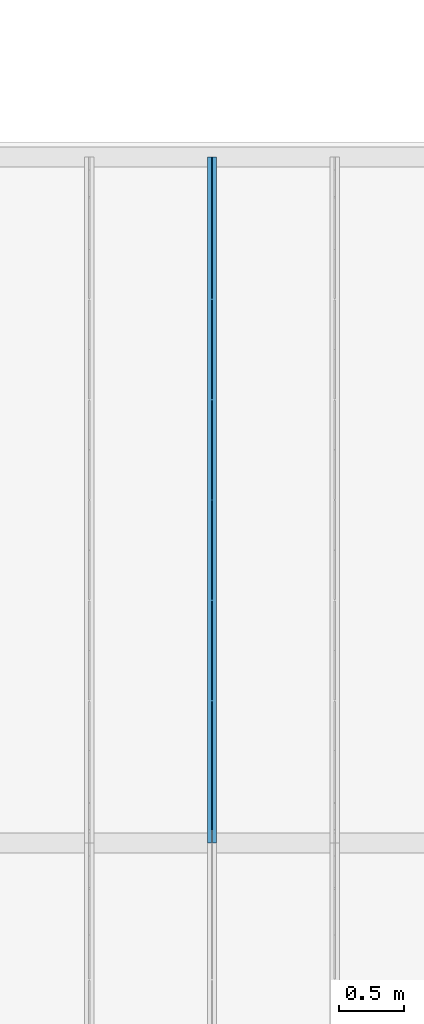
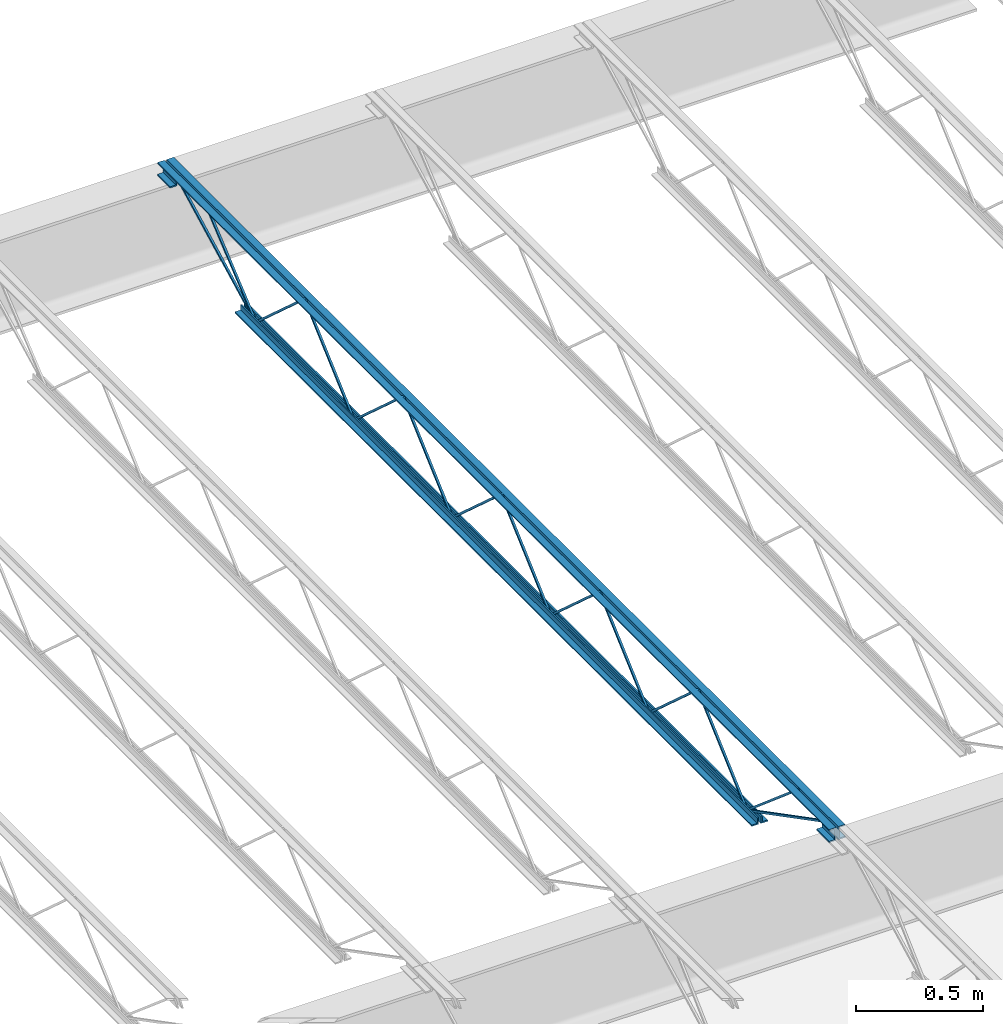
# One storey, part 68 of 75: 1 beam.
"""IFC2X3 building model written with IfcOpenShell, lengths in metres."""

from ifc_helpers import new_model, entity, si_unit, converted_unit, frame, origin, place, context, project, spatial, face_set, surface_model, element, save


model = new_model("IFC2X3")

# Units and contexts
model_context = context("Model", 3, precision=1e-09, world=origin())
plan_context = context("Plan", 3, precision=1e-09, world=origin())
ifc_project = project(units=[si_unit("LENGTHUNIT", "METRE"), si_unit("AREAUNIT", "SQUARE_METRE"), si_unit("VOLUMEUNIT", "CUBIC_METRE"), converted_unit("PLANEANGLEUNIT", "DEGREE", entity("IfcRatioMeasure", 0.01745329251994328), si_unit("PLANEANGLEUNIT", "RADIAN"), dimensions=[0, 0, 0, 0, 0, 0, 0]), si_unit("TIMEUNIT", "SECOND")], contexts=[model_context, plan_context])

# Site, building, storey
site_placement = place(None, origin())
site = spatial("IfcSite", under=ifc_project, at=site_placement, Name="Default", CompositionType="ELEMENT")
building_placement = place(site_placement, origin())
building = spatial("IfcBuilding", under=site, at=building_placement, CompositionType="ELEMENT")
storey_placement = place(building_placement, origin())
storey = spatial("IfcBuildingStorey", under=building, at=storey_placement, Name="First Floor", CompositionType="ELEMENT", Elevation=-3.531500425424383e-13)

# Beam
beam_placement = place(storey_placement, frame((-11.11673749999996, 44.78049999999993, 4.112000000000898), z_axis=(0.0, 0.0, 1.0), x_axis=(-1.0, 0.0, 0.0)))
element("IfcBeam", 1, at=beam_placement, inside=storey, Name="M_K-Series Bar Joist-Rod Web:14K1:14K1", ObjectType="M_K-Series Bar Joist-Rod Web:14K1", context=model_context, shape_type="SurfaceModel", body=[
    surface_model("IfcFaceBasedSurfaceModel", [(-0.0320000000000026, -2.266000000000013, 0.01110000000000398), (-0.04150000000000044, -2.266000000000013, 0.01110000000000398), (-0.04150000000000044, -2.266000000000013, 0.001600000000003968), (-0.0320000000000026, -2.266000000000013, 0.001600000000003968), (-0.04150000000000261, -2.264645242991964, 0.01110000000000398), (-0.0320000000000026, -2.264645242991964, 0.01110000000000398), (-0.04150000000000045, -2.26100475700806, 0.001600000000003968), (-0.04149999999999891, -1.878854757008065, 0.3449000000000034), (-0.04149999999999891, -1.876145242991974, 0.3449000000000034), (-0.04149999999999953, -1.493995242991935, 0.001600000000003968), (-0.04149999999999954, -1.489000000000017, 0.001600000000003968), (-0.04149999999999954, -1.489000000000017, 0.01110000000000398), (-0.04149999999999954, -1.490354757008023, 0.01110000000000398), (-0.04150000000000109, -1.872504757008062, 0.3544000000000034), (-0.04150000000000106, -1.882495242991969, 0.3544000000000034), (-0.03200000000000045, -2.26100475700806, 0.001600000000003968), (-0.03200000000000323, -1.878854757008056, 0.3449000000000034), (-0.03200000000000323, -1.876145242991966, 0.3449000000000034), (-0.0320000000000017, -1.493995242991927, 0.001600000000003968), (-0.03200000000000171, -1.489000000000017, 0.001600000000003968), (-0.03200000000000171, -1.489000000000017, 0.01110000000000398), (-0.0320000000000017, -1.490354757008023, 0.01110000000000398), (-0.03200000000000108, -1.872504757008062, 0.3544000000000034), (-0.03200000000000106, -1.882495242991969, 0.3544000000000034), (-0.03200000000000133, -3.04300000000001, 0.01110000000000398), (-0.04149999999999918, -3.04300000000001, 0.01110000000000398), (-0.04149999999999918, -3.04300000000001, 0.001600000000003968), (-0.03200000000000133, -3.04300000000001, 0.001600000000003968), (-0.04150000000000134, -3.041645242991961, 0.01110000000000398), (-0.03200000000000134, -3.041645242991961, 0.01110000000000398), (-0.04149999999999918, -3.038004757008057, 0.001600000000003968), (-0.0414999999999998, -2.655854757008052, 0.3449000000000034), (-0.04149999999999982, -2.653145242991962, 0.3449000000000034), (-0.04150000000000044, -2.270995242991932, 0.001600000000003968), (-0.04149999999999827, -2.266000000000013, 0.01110000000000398), (-0.04149999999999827, -2.26735475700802, 0.01110000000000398), (-0.04149999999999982, -2.649504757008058, 0.3544000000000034), (-0.0414999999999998, -2.659495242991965, 0.3544000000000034), (-0.03199999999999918, -3.038004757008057, 0.001600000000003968), (-0.03200000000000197, -2.655854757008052, 0.3449000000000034), (-0.03200000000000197, -2.653145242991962, 0.3449000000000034), (-0.03200000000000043, -2.270995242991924, 0.001600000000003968), (-0.03200000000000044, -2.266000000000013, 0.001600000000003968), (-0.0320000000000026, -2.26735475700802, 0.01110000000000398), (-0.03200000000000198, -2.649504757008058, 0.3544000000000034), (-0.03200000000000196, -2.659495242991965, 0.3544000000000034), (-0.03200000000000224, -3.820000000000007, 0.01110000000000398), (-0.04150000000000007, -3.820000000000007, 0.01110000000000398), (-0.04150000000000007, -3.820000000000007, 0.001600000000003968), (-0.03200000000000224, -3.820000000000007, 0.001600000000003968), (-0.04150000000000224, -3.818645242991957, 0.01110000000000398), (-0.03200000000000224, -3.818645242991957, 0.01110000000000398), (-0.04150000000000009, -3.815004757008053, 0.001600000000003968), (-0.0415000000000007, -3.432854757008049, 0.3449000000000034), (-0.04150000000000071, -3.430145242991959, 0.3449000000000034), (-0.04149999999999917, -3.04799524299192, 0.001600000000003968), (-0.04149999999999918, -3.043000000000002, 0.001600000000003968), (-0.04149999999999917, -3.044354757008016, 0.01110000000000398), (-0.04150000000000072, -3.426504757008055, 0.3544000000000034), (-0.0415000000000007, -3.436495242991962, 0.3544000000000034), (-0.03200000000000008, -3.815004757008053, 0.001600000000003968), (-0.03200000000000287, -3.432854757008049, 0.3449000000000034), (-0.03200000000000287, -3.430145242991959, 0.3449000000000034), (-0.03200000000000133, -3.04799524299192, 0.001600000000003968), (-0.03200000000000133, -3.043000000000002, 0.01110000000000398), (-0.03200000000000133, -3.044354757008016, 0.01110000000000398), (-0.03200000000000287, -3.426504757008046, 0.3544000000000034), (-0.03200000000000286, -3.436495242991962, 0.3544000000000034), (-0.03200000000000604, -1.489000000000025, 0.01109999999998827), (-0.04150000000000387, -1.489000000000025, 0.01109999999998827), (-0.04150000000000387, -1.489000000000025, 0.001599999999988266), (-0.03200000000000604, -1.489000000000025, 0.001599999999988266), (-0.04150000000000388, -1.487645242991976, 0.01109999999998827), (-0.03200000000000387, -1.487645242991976, 0.01109999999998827), (-0.04150000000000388, -1.484004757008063, 0.001599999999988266), (-0.04150000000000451, -1.101854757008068, 0.3448999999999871), (-0.04150000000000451, -1.099145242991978, 0.3448999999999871), (-0.04150000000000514, -0.7169952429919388, 0.001599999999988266), (-0.04150000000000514, -0.7120000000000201, 0.001599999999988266), (-0.04150000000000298, -0.7120000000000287, 0.01109999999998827), (-0.04150000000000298, -0.7133547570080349, 0.01109999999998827), (-0.04150000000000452, -1.095504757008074, 0.3543999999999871), (-0.0415000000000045, -1.10549524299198, 0.3543999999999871), (-0.03200000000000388, -1.484004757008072, 0.001599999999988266), (-0.0320000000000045, -1.101854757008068, 0.3448999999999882), (-0.0320000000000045, -1.099145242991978, 0.3448999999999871), (-0.03200000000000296, -0.7169952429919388, 0.001599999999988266), (-0.03200000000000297, -0.7120000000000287, 0.001599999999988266), (-0.0320000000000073, -0.7120000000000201, 0.01109999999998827), (-0.03200000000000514, -0.7133547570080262, 0.01109999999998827), (-0.03200000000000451, -1.095504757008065, 0.3543999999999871), (-0.0320000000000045, -1.10549524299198, 0.3543999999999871), (-0.03200000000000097, -4.597000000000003, 0.01110000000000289), (-0.04149999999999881, -4.597000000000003, 0.01110000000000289), (-0.04149999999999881, -4.597000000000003, 0.001600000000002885), (-0.03200000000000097, -4.597000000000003, 0.001600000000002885), (-0.04150000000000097, -4.595645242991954, 0.01110000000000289), (-0.03200000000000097, -4.595645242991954, 0.01110000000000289), (-0.04149999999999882, -4.592004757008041, 0.001600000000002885), (-0.04149999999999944, -4.209854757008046, 0.3449000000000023), (-0.04149999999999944, -4.207145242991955, 0.3449000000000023), (-0.04150000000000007, -3.824995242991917, 0.001600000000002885), (-0.04150000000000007, -3.819999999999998, 0.001600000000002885), (-0.04149999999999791, -3.820000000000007, 0.01110000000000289), (-0.04149999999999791, -3.821354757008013, 0.01110000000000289), (-0.04149999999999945, -4.203504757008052, 0.3544000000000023), (-0.04149999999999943, -4.213495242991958, 0.3544000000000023), (-0.03199999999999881, -4.592004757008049, 0.001600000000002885), (-0.0320000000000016, -4.209854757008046, 0.3449000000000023), (-0.0320000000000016, -4.207145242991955, 0.3449000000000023), (-0.03200000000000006, -3.824995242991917, 0.001600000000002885), (-0.03200000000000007, -3.820000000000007, 0.001600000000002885), (-0.03200000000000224, -3.819999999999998, 0.01110000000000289), (-0.03200000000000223, -3.821354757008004, 0.01110000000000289), (-0.03200000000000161, -4.203504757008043, 0.3544000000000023), (-0.03200000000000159, -4.21349524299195, 0.3544000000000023), (-0.04150000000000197, 0.0, 0.3559999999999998), (-0.07350000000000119, 0.0, 0.3559999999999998), (-0.07350000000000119, 0.0, 0.349499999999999), (-0.04800000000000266, 0.0, 0.349499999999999), (-0.04800000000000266, 0.0, 0.3239999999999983), (-0.04150000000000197, 0.0, 0.3239999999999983), (-0.03200000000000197, 0.0, 0.3559999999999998), (-0.03200000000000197, 0.0, 0.3239999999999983), (-0.02550000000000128, 0.0, 0.3239999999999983), (-0.02550000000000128, 0.0, 0.349499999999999), (0.0, 0.0, 0.349499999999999), (0.0, 0.0, 0.3559999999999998), (-0.04150000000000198, -5.309000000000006, 0.3559999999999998), (-0.0735000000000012, -5.309000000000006, 0.3559999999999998), (-0.0735000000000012, -5.309000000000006, 0.349499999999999), (-0.04800000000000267, -5.309000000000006, 0.349499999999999), (-0.04800000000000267, -5.309000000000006, 0.3239999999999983), (-0.04150000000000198, -5.309000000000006, 0.3239999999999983), (-0.03200000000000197, -5.309000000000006, 0.3559999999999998), (-0.03200000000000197, -5.309000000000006, 0.3239999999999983), (-0.02550000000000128, -5.309000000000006, 0.3239999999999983), (-0.02550000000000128, -5.309000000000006, 0.349499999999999), (0.0, -5.309000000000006, 0.349499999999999), (0.0, -5.309000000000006, 0.3559999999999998), (-0.03200000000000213, -5.20900000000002, 0.2924999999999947), (0.0, -5.20900000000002, 0.2924999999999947), (0.0, -5.20900000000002, 0.2989999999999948), (-0.02550000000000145, -5.20900000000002, 0.2989999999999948), (-0.02550000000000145, -5.20900000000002, 0.3239999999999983), (-0.03200000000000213, -5.20900000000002, 0.3239999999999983), (-0.07350000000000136, -5.20900000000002, 0.2924999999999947), (-0.04150000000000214, -5.20900000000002, 0.2924999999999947), (-0.04150000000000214, -5.20900000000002, 0.3239999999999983), (-0.04800000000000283, -5.20900000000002, 0.3239999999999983), (-0.04800000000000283, -5.20900000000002, 0.2989999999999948), (-0.07350000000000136, -5.20900000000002, 0.2989999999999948), (-0.03200000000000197, -5.309000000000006, 0.2924999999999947), (0.0, -5.309000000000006, 0.2924999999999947), (0.0, -5.309000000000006, 0.2989999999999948), (-0.02550000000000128, -5.309000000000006, 0.2989999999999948), (-0.0735000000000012, -5.309000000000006, 0.2924999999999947), (-0.04150000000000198, -5.309000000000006, 0.2924999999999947), (-0.04800000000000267, -5.309000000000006, 0.2989999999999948), (-0.0735000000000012, -5.309000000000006, 0.2989999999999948), (-0.04150000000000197, 0.0, 0.2924999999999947), (-0.04800000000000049, 0.0, 0.3239999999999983), (-0.04800000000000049, 0.0, 0.2989999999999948), (-0.07350000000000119, 0.0, 0.2989999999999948), (-0.07350000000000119, 0.0, 0.2924999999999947), (-0.03200000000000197, 0.0, 0.2924999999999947), (0.0, 0.0, 0.2924999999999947), (0.0, 0.0, 0.2989999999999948), (-0.02550000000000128, 0.0, 0.2989999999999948), (-0.04150000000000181, -0.1000000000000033, 0.2924999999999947), (-0.04150000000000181, -0.1000000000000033, 0.3239999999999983), (-0.04800000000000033, -0.1000000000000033, 0.3239999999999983), (-0.04800000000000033, -0.1000000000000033, 0.2989999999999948), (-0.07350000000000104, -0.1000000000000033, 0.2989999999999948), (-0.07350000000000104, -0.1000000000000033, 0.2924999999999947), (-0.03200000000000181, -0.1000000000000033, 0.2924999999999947), (0.0, -0.1000000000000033, 0.2924999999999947), (0.0, -0.1000000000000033, 0.2989999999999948), (-0.02550000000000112, -0.1000000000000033, 0.2989999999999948), (-0.02550000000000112, -0.1000000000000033, 0.3239999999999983), (-0.03200000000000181, -0.1000000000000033, 0.3239999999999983), (-0.04150000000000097, -0.6119999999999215, 0.0), (-0.04150000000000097, -0.6119999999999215, 0.03199999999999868), (-0.04800000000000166, -0.6119999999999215, 0.03199999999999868), (-0.04800000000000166, -0.6119999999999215, 0.006499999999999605), (-0.07350000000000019, -0.6119999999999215, 0.006499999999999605), (-0.07350000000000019, -0.6119999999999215, 0.0), (-0.03200000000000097, -0.6119999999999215, 0.0), (0.0, -0.6119999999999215, 0.0), (0.0, -0.6119999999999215, 0.006499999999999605), (-0.02550000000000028, -0.6119999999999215, 0.006499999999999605), (-0.02550000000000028, -0.6119999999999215, 0.03199999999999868), (-0.03200000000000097, -0.6119999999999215, 0.03199999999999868), (-0.04150000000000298, -4.696999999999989, 0.0), (-0.04150000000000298, -4.696999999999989, 0.03199999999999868), (-0.04800000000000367, -4.696999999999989, 0.03199999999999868), (-0.04800000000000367, -4.696999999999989, 0.006499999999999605), (-0.0735000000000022, -4.696999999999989, 0.006499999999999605), (-0.0735000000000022, -4.696999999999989, 0.0), (-0.03200000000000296, -4.696999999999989, 0.0), (0.0, -4.696999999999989, 0.0), (0.0, -4.696999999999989, 0.006499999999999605), (-0.02550000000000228, -4.696999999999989, 0.006499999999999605), (-0.02550000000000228, -4.696999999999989, 0.03199999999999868), (-0.03200000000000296, -4.696999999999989, 0.03199999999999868), (-0.03199999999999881, -4.594811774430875, 0.01056594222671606), (-0.04149999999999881, -4.594811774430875, 0.01056594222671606), (-0.04149999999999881, -4.599188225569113, 0.002134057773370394), (-0.03200000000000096, -4.599188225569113, 0.002134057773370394), (-0.0319999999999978, -5.207840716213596, 0.3287499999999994), (-0.0319999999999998, -5.308999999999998, 0.3287499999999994), (-0.03200000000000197, -5.308999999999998, 0.3192499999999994), (-0.03200000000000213, -5.210159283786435, 0.3192499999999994), (-0.04149999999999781, -5.210159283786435, 0.3192499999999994), (-0.04149999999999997, -5.207840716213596, 0.3287499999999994), (-0.04149999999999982, -5.308999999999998, 0.3287499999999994), (-0.04149999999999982, -5.309000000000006, 0.3192499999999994), (-0.03200000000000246, -5.005457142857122, 0.341700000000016), (-0.0415000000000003, -5.005457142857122, 0.341700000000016), (-0.0415000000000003, -5.005457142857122, 0.332200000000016), (-0.03200000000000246, -5.005457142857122, 0.332200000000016), (-0.04150000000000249, -4.991034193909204, 0.341700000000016), (-0.03200000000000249, -4.991034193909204, 0.341700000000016), (-0.04150000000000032, -4.994480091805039, 0.332200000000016), (-0.0414999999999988, -4.600045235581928, 0.002704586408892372), (-0.04150000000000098, -4.593954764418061, 0.009995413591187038), (-0.03200000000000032, -4.994480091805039, 0.332200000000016), (-0.03200000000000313, -4.600045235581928, 0.002704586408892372), (-0.03199999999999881, -4.593954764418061, 0.009995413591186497), (-0.03199999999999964, -0.09781177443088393, 0.3197840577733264), (-0.03200000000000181, -0.1021882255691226, 0.3282159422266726), (-0.04150000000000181, -0.1021882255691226, 0.3282159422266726), (-0.04149999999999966, -0.09781177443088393, 0.3197840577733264), (-0.03200000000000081, -0.7098117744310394, 0.002134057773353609), (-0.03200000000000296, -0.714188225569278, 0.01056594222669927), (-0.04150000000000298, -0.714188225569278, 0.01056594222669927), (-0.04150000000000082, -0.7098117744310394, 0.002134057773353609), (-0.0319999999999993, -0.3059055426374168, 0.3460340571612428), (-0.03200000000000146, -0.3120658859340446, 0.3532659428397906), (-0.04150000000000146, -0.3120658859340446, 0.3532659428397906), (-0.04149999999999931, -0.3059055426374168, 0.3460340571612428), (-0.03200000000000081, -0.7089198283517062, 0.002734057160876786), (-0.03200000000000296, -0.7150801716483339, 0.009965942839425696), (-0.04150000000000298, -0.7150801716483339, 0.009965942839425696), (-0.04150000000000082, -0.7089198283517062, 0.002734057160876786)], [face_set([[[0, 1, 2, 3]], [[1, 4, 5, 0]], [[2, 6, 7, 8, 9, 10, 11, 12, 13, 14, 4, 1]], [[3, 2, 6, 15]], [[0, 3, 15, 16, 17, 18, 19, 20, 21, 22, 23, 5]], [[4, 5, 23, 14]], [[15, 16, 7, 6]], [[14, 13, 22, 23]], [[16, 7, 8, 17]], [[13, 12, 21, 22]], [[17, 8, 9, 18]], [[20, 11, 10, 19]], [[12, 11, 20, 21]], [[18, 9, 10, 19]]]), face_set([[[24, 25, 26, 27]], [[25, 28, 29, 24]], [[26, 30, 31, 32, 33, 2, 34, 35, 36, 37, 28, 25]], [[27, 26, 30, 38]], [[24, 27, 38, 39, 40, 41, 42, 0, 43, 44, 45, 29]], [[28, 29, 45, 37]], [[38, 39, 31, 30]], [[37, 36, 44, 45]], [[39, 31, 32, 40]], [[36, 35, 43, 44]], [[40, 32, 33, 41]], [[0, 34, 2, 42]], [[35, 34, 0, 43]], [[41, 33, 2, 42]]]), face_set([[[46, 47, 48, 49]], [[47, 50, 51, 46]], [[48, 52, 53, 54, 55, 56, 25, 57, 58, 59, 50, 47]], [[49, 48, 52, 60]], [[46, 49, 60, 61, 62, 63, 27, 64, 65, 66, 67, 51]], [[50, 51, 67, 59]], [[60, 61, 53, 52]], [[59, 58, 66, 67]], [[61, 53, 54, 62]], [[58, 57, 65, 66]], [[62, 54, 55, 63]], [[64, 25, 56, 27]], [[57, 25, 64, 65]], [[63, 55, 56, 27]]]), face_set([[[68, 69, 70, 71]], [[69, 72, 73, 68]], [[70, 74, 75, 76, 77, 78, 79, 80, 81, 82, 72, 69]], [[71, 70, 74, 83]], [[68, 71, 83, 84, 85, 86, 87, 88, 89, 90, 91, 73]], [[72, 73, 91, 82]], [[83, 84, 75, 74]], [[82, 81, 90, 91]], [[84, 75, 76, 85]], [[81, 80, 89, 90]], [[85, 76, 77, 86]], [[88, 79, 78, 87]], [[80, 79, 88, 89]], [[86, 77, 78, 87]]]), face_set([[[92, 93, 94, 95]], [[93, 96, 97, 92]], [[94, 98, 99, 100, 101, 102, 103, 104, 105, 106, 96, 93]], [[95, 94, 98, 107]], [[92, 95, 107, 108, 109, 110, 111, 112, 113, 114, 115, 97]], [[96, 97, 115, 106]], [[107, 108, 99, 98]], [[106, 105, 114, 115]], [[108, 99, 100, 109]], [[105, 104, 113, 114]], [[109, 100, 101, 110]], [[112, 103, 102, 111]], [[104, 103, 112, 113]], [[110, 101, 102, 111]]]), face_set([[[116, 117, 118, 119, 120, 121]], [[122, 123, 124, 125, 126, 127]], [[128, 129, 130, 131, 132, 133]], [[134, 135, 136, 137, 138, 139]], [[121, 116, 128, 133]], [[120, 121, 133, 132]], [[119, 131, 132, 120]], [[118, 119, 131, 130]], [[117, 129, 130, 118]], [[116, 128, 129, 117]], [[127, 139, 134, 122]], [[126, 127, 139, 138]], [[125, 126, 138, 137]], [[124, 125, 137, 136]], [[123, 124, 136, 135]], [[122, 134, 135, 123]]]), face_set([[[140, 141, 142, 143, 144, 145]], [[146, 147, 148, 149, 150, 151]], [[152, 153, 154, 155, 136, 135]], [[156, 157, 133, 132, 158, 159]], [[145, 135, 152, 140]], [[144, 136, 135, 145]], [[143, 144, 136, 155]], [[142, 154, 155, 143]], [[141, 142, 154, 153]], [[140, 141, 153, 152]], [[151, 159, 156, 146]], [[150, 158, 159, 151]], [[149, 132, 158, 150]], [[148, 133, 132, 149]], [[147, 148, 133, 157]], [[146, 147, 157, 156]]]), face_set([[[160, 121, 161, 162, 163, 164]], [[165, 166, 167, 168, 124, 123]], [[169, 170, 171, 172, 173, 174]], [[175, 176, 177, 178, 179, 180]], [[164, 160, 169, 174]], [[163, 173, 174, 164]], [[162, 172, 173, 163]], [[161, 171, 172, 162]], [[121, 170, 171, 161]], [[160, 121, 170, 169]], [[123, 180, 175, 165]], [[124, 179, 180, 123]], [[168, 124, 179, 178]], [[167, 177, 178, 168]], [[166, 167, 177, 176]], [[165, 166, 176, 175]]]), face_set([[[181, 182, 183, 184, 185, 186]], [[187, 188, 189, 190, 191, 192]], [[193, 194, 195, 196, 197, 198]], [[199, 200, 201, 202, 203, 204]], [[186, 181, 193, 198]], [[185, 197, 198, 186]], [[184, 196, 197, 185]], [[183, 195, 196, 184]], [[182, 194, 195, 183]], [[181, 182, 194, 193]], [[192, 204, 199, 187]], [[191, 203, 204, 192]], [[190, 191, 203, 202]], [[189, 201, 202, 190]], [[188, 189, 201, 200]], [[187, 188, 200, 199]]]), face_set([[[205, 206, 207, 208]], [[208, 205, 209, 210, 211, 212]], [[207, 208, 212, 213]], [[206, 214, 215, 216, 213, 207]], [[205, 209, 214, 206]], [[210, 215, 216, 211]], [[213, 212, 211, 216]], [[209, 210, 215, 214]]]), face_set([[[217, 218, 219, 220]], [[218, 221, 222, 217]], [[219, 223, 224, 225, 221, 218]], [[220, 219, 223, 226]], [[217, 220, 226, 227, 228, 222]], [[228, 225, 224, 227]], [[221, 225, 228, 222]], [[226, 223, 224, 227]]]), face_set([[[229, 230, 231, 232]], [[233, 234, 235, 236]], [[232, 236, 233, 229]], [[231, 235, 236, 232]], [[230, 231, 235, 234]], [[229, 230, 234, 233]]]), face_set([[[237, 238, 239, 240]], [[241, 242, 243, 244]], [[240, 244, 241, 237]], [[239, 243, 244, 240]], [[238, 239, 243, 242]], [[237, 238, 242, 241]]])]),
])

save(model, "model.ifc")
